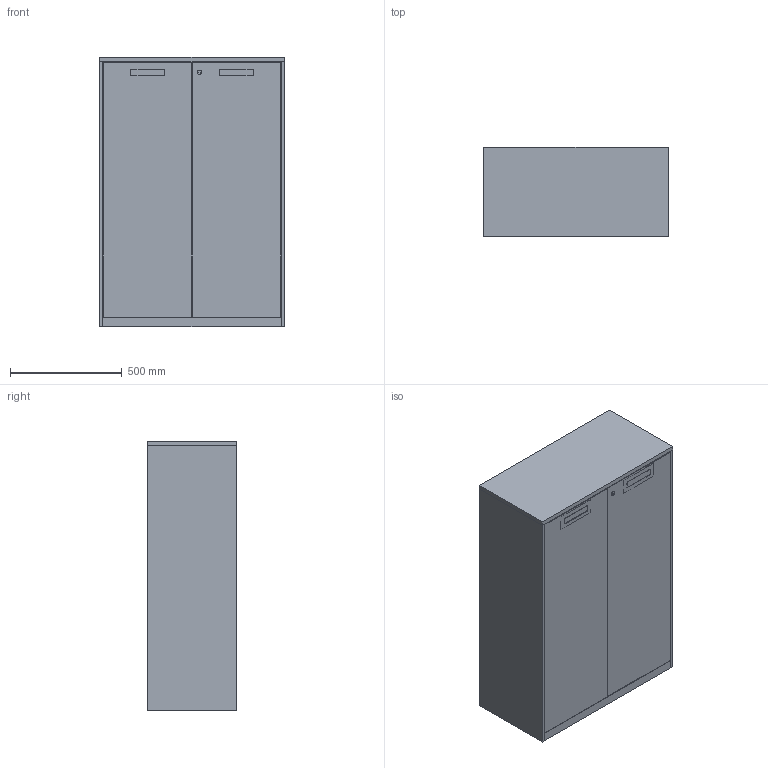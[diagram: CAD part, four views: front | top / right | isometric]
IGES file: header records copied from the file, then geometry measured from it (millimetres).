
Start section: Comment
Global section: file name: SB-H3-2.igs; native system:  By UGS Corp.; preprocessor: XPlus GENERIC/IGES 3.0; author: Author; organization: Title; date: 20170209.122916; units: inch
Bounding box: 828 x 402 x 1208.01 mm (x, y, z)
Surface area: 6303651.3 mm2 (no closed solid volume)
Topology: 0 solids, 0 shells, 72 faces, 336 edges, 336 vertices
Faces by surface type: bspline 72
